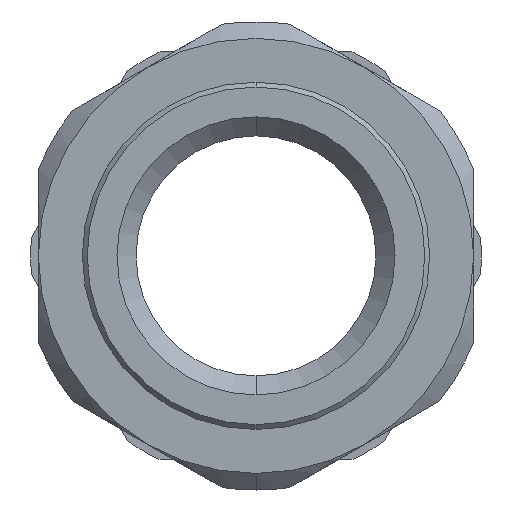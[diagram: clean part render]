
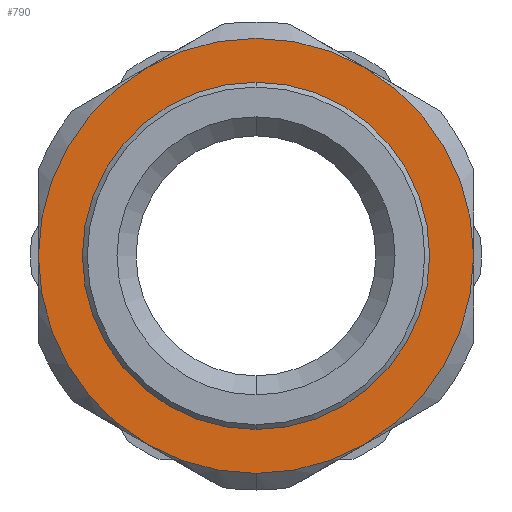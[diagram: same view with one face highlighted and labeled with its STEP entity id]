
A CAD part, front view. The second image highlights one B-rep face of the part: STEP entity #790.
In plain terms, the highlighted planar face has unit normal (0, -1, 0).
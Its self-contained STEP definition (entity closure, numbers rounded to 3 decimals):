
#18 = CARTESIAN_POINT ( 'NONE',  ( 11.15, 1., 19.312 ) ) ;
#33 = CARTESIAN_POINT ( 'NONE',  ( 22.3, 1., 0. ) ) ;
#36 = CARTESIAN_POINT ( 'NONE',  ( -22.3, 1., 0. ) ) ;
#37 = CARTESIAN_POINT ( 'NONE',  ( 11.15, 1., -19.312 ) ) ;
#42 = CARTESIAN_POINT ( 'NONE',  ( 0., 1., 17.8 ) ) ;
#43 = CARTESIAN_POINT ( 'NONE',  ( -11.15, 1., -19.312 ) ) ;
#52 = FACE_OUTER_BOUND ( 'NONE', #1806, .T. ) ;
#54 = AXIS2_PLACEMENT_3D ( 'NONE', #2230, #2376, #2375 ) ;
#64 = FACE_BOUND ( 'NONE', #1801, .T. ) ;
#295 = AXIS2_PLACEMENT_3D ( 'NONE', #1261, #1260, #1259 ) ;
#301 = AXIS2_PLACEMENT_3D ( 'NONE', #1294, #1281, #1280 ) ;
#354 = AXIS2_PLACEMENT_3D ( 'NONE', #2176, #1942, #1945 ) ;
#356 = AXIS2_PLACEMENT_3D ( 'NONE', #2458, #2307, #2305 ) ;
#359 = AXIS2_PLACEMENT_3D ( 'NONE', #2442, #2438, #2439 ) ;
#371 = AXIS2_PLACEMENT_3D ( 'NONE', #2400, #2395, #2396 ) ;
#482 = AXIS2_PLACEMENT_3D ( 'NONE', #946, #942, #941 ) ;
#506 = AXIS2_PLACEMENT_3D ( 'NONE', #586, #590, #591 ) ;
#509 = AXIS2_PLACEMENT_3D ( 'NONE', #622, #623, #624 ) ;
#586 = CARTESIAN_POINT ( 'NONE',  ( 0., 1., 0. ) ) ;
#590 = DIRECTION ( 'NONE',  ( 0., -1., 0. ) ) ;
#591 = DIRECTION ( 'NONE',  ( 0., 0., -1. ) ) ;
#622 = CARTESIAN_POINT ( 'NONE',  ( 0., 1., 0. ) ) ;
#623 = DIRECTION ( 'NONE',  ( 0., -1., 0. ) ) ;
#624 = DIRECTION ( 'NONE',  ( 0., 0., -1. ) ) ;
#738 = CIRCLE ( 'NONE', #295, 22.3 ) ;
#744 = CIRCLE ( 'NONE', #301, 22.3 ) ;
#764 = CIRCLE ( 'NONE', #354, 22.3 ) ;
#765 = CIRCLE ( 'NONE', #356, 22.3 ) ;
#767 = CIRCLE ( 'NONE', #359, 22.3 ) ;
#770 = CIRCLE ( 'NONE', #371, 17.8 ) ;
#790 = ADVANCED_FACE ( 'NONE', ( #64, #52 ), #2232, .F. ) ;
#850 = EDGE_CURVE ( 'NONE', #1665, #1699, #770, .T. ) ;
#859 = EDGE_CURVE ( 'NONE', #1639, #1691, #767, .T. ) ;
#863 = EDGE_CURVE ( 'NONE', #1677, #1639, #765, .T. ) ;
#868 = EDGE_CURVE ( 'NONE', #1662, #1725, #764, .T. ) ;
#872 = CIRCLE ( 'NONE', #506, 22.3 ) ;
#895 = CIRCLE ( 'NONE', #482, 17.8 ) ;
#903 = CIRCLE ( 'NONE', #509, 22.3 ) ;
#941 = DIRECTION ( 'NONE',  ( 0., 0., -1. ) ) ;
#942 = DIRECTION ( 'NONE',  ( 0., -1., 0. ) ) ;
#946 = CARTESIAN_POINT ( 'NONE',  ( 0., 1., 0. ) ) ;
#1259 = DIRECTION ( 'NONE',  ( 0., 0., -1. ) ) ;
#1260 = DIRECTION ( 'NONE',  ( 0., -1., 0. ) ) ;
#1261 = CARTESIAN_POINT ( 'NONE',  ( 0., 1., 0. ) ) ;
#1280 = DIRECTION ( 'NONE',  ( 0., 0., -1. ) ) ;
#1281 = DIRECTION ( 'NONE',  ( 0., -1., 0. ) ) ;
#1294 = CARTESIAN_POINT ( 'NONE',  ( 0., 1., 0. ) ) ;
#1479 = CARTESIAN_POINT ( 'NONE',  ( 0., 1., -22.3 ) ) ;
#1505 = CARTESIAN_POINT ( 'NONE',  ( 0., 1., -17.8 ) ) ;
#1564 = ORIENTED_EDGE ( 'NONE', *, *, #850, .F. ) ;
#1574 = ORIENTED_EDGE ( 'NONE', *, *, #2154, .T. ) ;
#1639 = VERTEX_POINT ( 'NONE', #1971 ) ;
#1662 = VERTEX_POINT ( 'NONE', #43 ) ;
#1665 = VERTEX_POINT ( 'NONE', #42 ) ;
#1677 = VERTEX_POINT ( 'NONE', #18 ) ;
#1683 = VERTEX_POINT ( 'NONE', #37 ) ;
#1691 = VERTEX_POINT ( 'NONE', #36 ) ;
#1697 = VERTEX_POINT ( 'NONE', #33 ) ;
#1699 = VERTEX_POINT ( 'NONE', #1505 ) ;
#1725 = VERTEX_POINT ( 'NONE', #1479 ) ;
#1801 = EDGE_LOOP ( 'NONE', ( #2367, #1564 ) ) ;
#1806 = EDGE_LOOP ( 'NONE', ( #1574, #2332, #2245, #2344, #2379, #2239, #2365 ) ) ;
#1942 = DIRECTION ( 'NONE',  ( 0., -1., 0. ) ) ;
#1945 = DIRECTION ( 'NONE',  ( 0., 0., -1. ) ) ;
#1971 = CARTESIAN_POINT ( 'NONE',  ( -11.15, 1., 19.312 ) ) ;
#2031 = EDGE_CURVE ( 'NONE', #1691, #1662, #744, .T. ) ;
#2038 = EDGE_CURVE ( 'NONE', #1683, #1697, #738, .T. ) ;
#2132 = EDGE_CURVE ( 'NONE', #1699, #1665, #895, .T. ) ;
#2154 = EDGE_CURVE ( 'NONE', #1697, #1677, #872, .T. ) ;
#2163 = EDGE_CURVE ( 'NONE', #1725, #1683, #903, .T. ) ;
#2176 = CARTESIAN_POINT ( 'NONE',  ( 0., 1., 0. ) ) ;
#2230 = CARTESIAN_POINT ( 'NONE',  ( -24., 1., 0. ) ) ;
#2232 = PLANE ( 'NONE',  #54 ) ;
#2239 = ORIENTED_EDGE ( 'NONE', *, *, #2163, .T. ) ;
#2245 = ORIENTED_EDGE ( 'NONE', *, *, #859, .T. ) ;
#2305 = DIRECTION ( 'NONE',  ( 0., 0., -1. ) ) ;
#2307 = DIRECTION ( 'NONE',  ( 0., -1., 0. ) ) ;
#2332 = ORIENTED_EDGE ( 'NONE', *, *, #863, .T. ) ;
#2344 = ORIENTED_EDGE ( 'NONE', *, *, #2031, .T. ) ;
#2365 = ORIENTED_EDGE ( 'NONE', *, *, #2038, .T. ) ;
#2367 = ORIENTED_EDGE ( 'NONE', *, *, #2132, .F. ) ;
#2375 = DIRECTION ( 'NONE',  ( 0., 0., 1. ) ) ;
#2376 = DIRECTION ( 'NONE',  ( 0., 1., 0. ) ) ;
#2379 = ORIENTED_EDGE ( 'NONE', *, *, #868, .T. ) ;
#2395 = DIRECTION ( 'NONE',  ( 0., -1., 0. ) ) ;
#2396 = DIRECTION ( 'NONE',  ( 0., 0., -1. ) ) ;
#2400 = CARTESIAN_POINT ( 'NONE',  ( 0., 1., 0. ) ) ;
#2438 = DIRECTION ( 'NONE',  ( 0., -1., 0. ) ) ;
#2439 = DIRECTION ( 'NONE',  ( 0., 0., -1. ) ) ;
#2442 = CARTESIAN_POINT ( 'NONE',  ( 0., 1., 0. ) ) ;
#2458 = CARTESIAN_POINT ( 'NONE',  ( 0., 1., 0. ) ) ;
